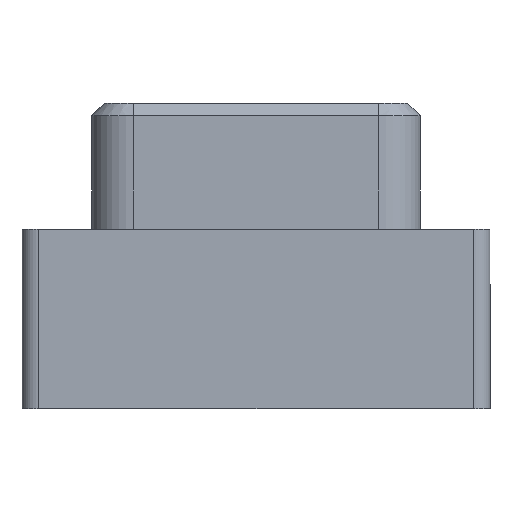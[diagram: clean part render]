
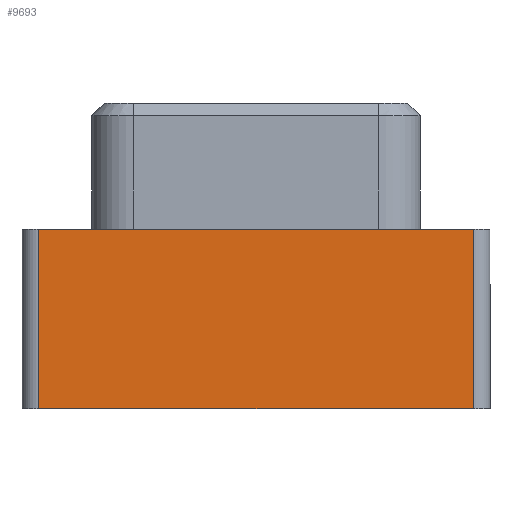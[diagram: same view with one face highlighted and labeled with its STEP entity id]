
A CAD part, left-side view. The second image highlights one B-rep face of the part: STEP entity #9693.
In plain terms, the highlighted planar face has unit normal (-1, 0, 0).
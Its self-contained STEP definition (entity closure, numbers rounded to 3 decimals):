
#964=FACE_OUTER_BOUND('',#1584,.T.);
#1584=EDGE_LOOP('',(#8705,#8706,#8707,#8708));
#2637=LINE('',#15694,#3783);
#2688=LINE('',#15822,#3834);
#2689=LINE('',#15826,#3835);
#2690=LINE('',#15829,#3836);
#3783=VECTOR('',#12709,10.);
#3834=VECTOR('',#12848,10.);
#3835=VECTOR('',#12853,10.);
#3836=VECTOR('',#12858,10.);
#4659=VERTEX_POINT('',#15691);
#4660=VERTEX_POINT('',#15693);
#4693=VERTEX_POINT('',#15821);
#4694=VERTEX_POINT('',#15825);
#5927=EDGE_CURVE('',#4659,#4660,#2637,.T.);
#5992=EDGE_CURVE('',#4660,#4693,#2688,.T.);
#5994=EDGE_CURVE('',#4694,#4693,#2689,.T.);
#5996=EDGE_CURVE('',#4694,#4659,#2690,.T.);
#8705=ORIENTED_EDGE('',*,*,#5992,.F.);
#8706=ORIENTED_EDGE('',*,*,#5927,.F.);
#8707=ORIENTED_EDGE('',*,*,#5996,.F.);
#8708=ORIENTED_EDGE('',*,*,#5994,.T.);
#9142=PLANE('',#10418);
#9693=ADVANCED_FACE('',(#964),#9142,.T.);
#10418=AXIS2_PLACEMENT_3D('',#15944,#12987,#12988);
#12709=DIRECTION('',(0.,-1.,0.));
#12848=DIRECTION('',(0.,0.,-1.));
#12853=DIRECTION('',(0.,-1.,0.));
#12858=DIRECTION('',(0.,0.,1.));
#12987=DIRECTION('center_axis',(-1.,0.,0.));
#12988=DIRECTION('ref_axis',(0.,-1.,0.));
#15691=CARTESIAN_POINT('',(-1.6,20.9,20.65));
#15693=CARTESIAN_POINT('',(-1.6,-20.9,20.65));
#15694=CARTESIAN_POINT('',(-1.6,21.,20.65));
#15821=CARTESIAN_POINT('',(-1.6,-20.9,3.4));
#15822=CARTESIAN_POINT('',(-1.6,-20.9,3.4));
#15825=CARTESIAN_POINT('',(-1.6,20.9,3.4));
#15826=CARTESIAN_POINT('',(-1.6,22.5,3.4));
#15829=CARTESIAN_POINT('',(-1.6,20.9,3.4));
#15944=CARTESIAN_POINT('Origin',(-1.6,22.5,3.4));
